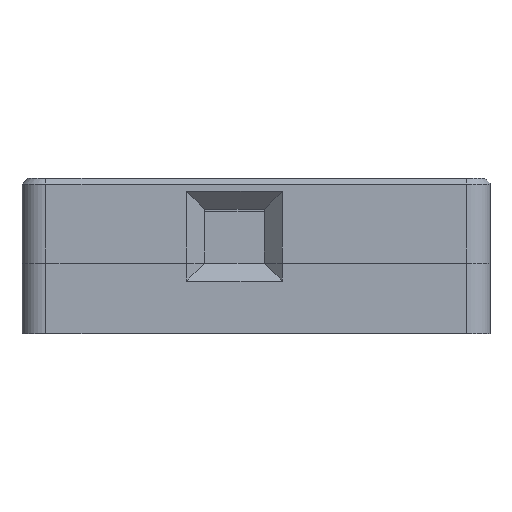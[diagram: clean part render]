
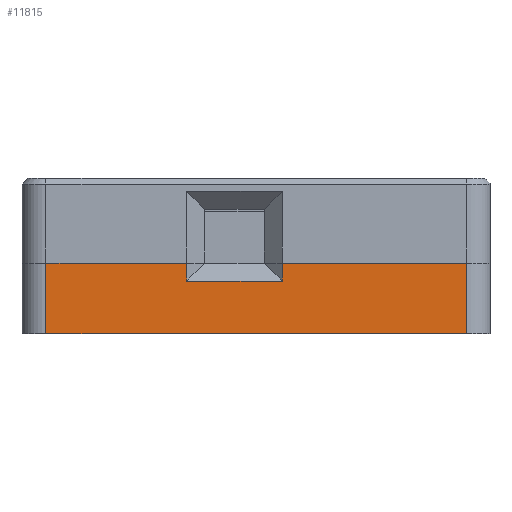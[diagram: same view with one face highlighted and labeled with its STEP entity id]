
A CAD part, left-side view. The second image highlights one B-rep face of the part: STEP entity #11815.
In plain terms, the highlighted planar face has unit normal (-1, 0, 0).
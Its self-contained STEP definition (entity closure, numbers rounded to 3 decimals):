
#261 = DIRECTION ( 'NONE',  ( 1., 0., 0. ) ) ;
#705 = VERTEX_POINT ( 'NONE', #11726 ) ;
#992 = CARTESIAN_POINT ( 'NONE',  ( -64.273, 50.229, 2.25 ) ) ;
#1445 = VERTEX_POINT ( 'NONE', #5567 ) ;
#1489 = DIRECTION ( 'NONE',  ( 0., 0., 1. ) ) ;
#1809 = ORIENTED_EDGE ( 'NONE', *, *, #12328, .T. ) ;
#1951 = VECTOR ( 'NONE', #12476, 1000. ) ;
#2325 = DIRECTION ( 'NONE',  ( 0., -1., 0. ) ) ;
#2420 = DIRECTION ( 'NONE',  ( 0., 1., 0. ) ) ;
#2471 = PLANE ( 'NONE',  #10964 ) ;
#2511 = DIRECTION ( 'NONE',  ( 0., 0., 1. ) ) ;
#2529 = VERTEX_POINT ( 'NONE', #4716 ) ;
#2538 = CARTESIAN_POINT ( 'NONE',  ( -64.273, 56.479, 2.25 ) ) ;
#3086 = VECTOR ( 'NONE', #2511, 1000. ) ;
#3136 = ORIENTED_EDGE ( 'NONE', *, *, #14009, .F. ) ;
#3264 = CARTESIAN_POINT ( 'NONE',  ( -64.273, 48.479, 0.75 ) ) ;
#3286 = CARTESIAN_POINT ( 'NONE',  ( -64.273, 50.229, -3.65 ) ) ;
#3376 = ORIENTED_EDGE ( 'NONE', *, *, #7966, .F. ) ;
#4235 = VECTOR ( 'NONE', #1489, 1000. ) ;
#4504 = CARTESIAN_POINT ( 'NONE',  ( -64.273, 54.979, 0.75 ) ) ;
#4716 = CARTESIAN_POINT ( 'NONE',  ( -64.273, 33.079, -3.65 ) ) ;
#5258 = EDGE_CURVE ( 'NONE', #12305, #2529, #7754, .T. ) ;
#5567 = CARTESIAN_POINT ( 'NONE',  ( -64.273, 48.479, 2.25 ) ) ;
#5726 = LINE ( 'NONE', #992, #14487 ) ;
#5865 = CARTESIAN_POINT ( 'NONE',  ( -64.273, 50.229, 2.25 ) ) ;
#6396 = EDGE_CURVE ( 'NONE', #2529, #705, #7204, .T. ) ;
#7004 = VERTEX_POINT ( 'NONE', #9316 ) ;
#7065 = DIRECTION ( 'NONE',  ( 0., 0., -1. ) ) ;
#7204 = LINE ( 'NONE', #13939, #3086 ) ;
#7754 = LINE ( 'NONE', #3286, #11330 ) ;
#7966 = EDGE_CURVE ( 'NONE', #7004, #9896, #5726, .T. ) ;
#8140 = LINE ( 'NONE', #9459, #8870 ) ;
#8299 = VECTOR ( 'NONE', #2325, 1000. ) ;
#8870 = VECTOR ( 'NONE', #7065, 1000. ) ;
#8938 = VERTEX_POINT ( 'NONE', #12132 ) ;
#9061 = CARTESIAN_POINT ( 'NONE',  ( -64.273, 50.229, 2.25 ) ) ;
#9251 = LINE ( 'NONE', #4504, #1951 ) ;
#9316 = CARTESIAN_POINT ( 'NONE',  ( -64.273, 68.229, 2.25 ) ) ;
#9459 = CARTESIAN_POINT ( 'NONE',  ( -64.273, 68.229, 2.25 ) ) ;
#9690 = EDGE_LOOP ( 'NONE', ( #10591, #1809, #3376, #12223, #13452, #13503, #3136, #11160 ) ) ;
#9896 = VERTEX_POINT ( 'NONE', #14509 ) ;
#10591 = ORIENTED_EDGE ( 'NONE', *, *, #11018, .T. ) ;
#10862 = FACE_OUTER_BOUND ( 'NONE', #9690, .T. ) ;
#10964 = AXIS2_PLACEMENT_3D ( 'NONE', #5865, #261, #2420 ) ;
#11018 = EDGE_CURVE ( 'NONE', #12778, #8938, #9251, .T. ) ;
#11160 = ORIENTED_EDGE ( 'NONE', *, *, #13569, .T. ) ;
#11330 = VECTOR ( 'NONE', #14619, 1000. ) ;
#11693 = CARTESIAN_POINT ( 'NONE',  ( -64.273, 48.479, 0.75 ) ) ;
#11721 = LINE ( 'NONE', #11693, #13657 ) ;
#11726 = CARTESIAN_POINT ( 'NONE',  ( -64.273, 33.079, 2.25 ) ) ;
#11815 = ADVANCED_FACE ( 'NONE', ( #10862 ), #2471, .F. ) ;
#11900 = LINE ( 'NONE', #9061, #8299 ) ;
#12132 = CARTESIAN_POINT ( 'NONE',  ( -64.273, 56.479, 0.75 ) ) ;
#12223 = ORIENTED_EDGE ( 'NONE', *, *, #12346, .T. ) ;
#12270 = LINE ( 'NONE', #2538, #4235 ) ;
#12305 = VERTEX_POINT ( 'NONE', #12512 ) ;
#12328 = EDGE_CURVE ( 'NONE', #8938, #9896, #12270, .T. ) ;
#12346 = EDGE_CURVE ( 'NONE', #7004, #12305, #8140, .T. ) ;
#12476 = DIRECTION ( 'NONE',  ( 0., 1., 0. ) ) ;
#12512 = CARTESIAN_POINT ( 'NONE',  ( -64.273, 68.229, -3.65 ) ) ;
#12541 = DIRECTION ( 'NONE',  ( 0., -1., 0. ) ) ;
#12778 = VERTEX_POINT ( 'NONE', #3264 ) ;
#13452 = ORIENTED_EDGE ( 'NONE', *, *, #5258, .T. ) ;
#13503 = ORIENTED_EDGE ( 'NONE', *, *, #6396, .T. ) ;
#13569 = EDGE_CURVE ( 'NONE', #1445, #12778, #11721, .T. ) ;
#13657 = VECTOR ( 'NONE', #13981, 1000. ) ;
#13939 = CARTESIAN_POINT ( 'NONE',  ( -64.273, 33.079, 2.25 ) ) ;
#13981 = DIRECTION ( 'NONE',  ( 0., 0., -1. ) ) ;
#14009 = EDGE_CURVE ( 'NONE', #1445, #705, #11900, .T. ) ;
#14487 = VECTOR ( 'NONE', #12541, 1000. ) ;
#14509 = CARTESIAN_POINT ( 'NONE',  ( -64.273, 56.479, 2.25 ) ) ;
#14619 = DIRECTION ( 'NONE',  ( 0., -1., 0. ) ) ;
